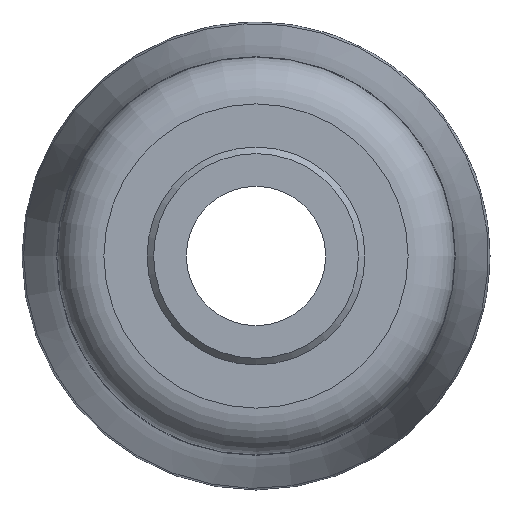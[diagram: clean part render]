
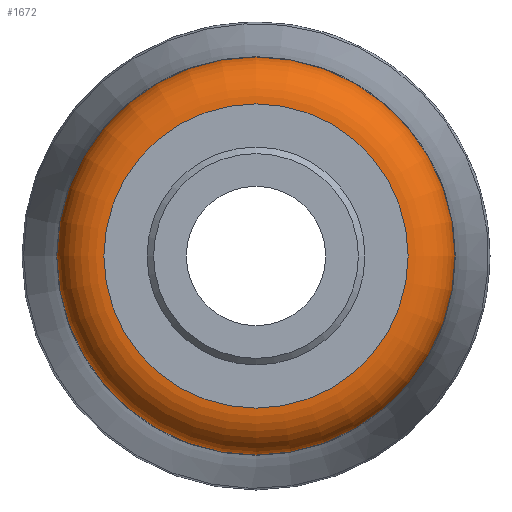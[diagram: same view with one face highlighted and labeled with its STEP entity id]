
A CAD part, left-side view. The second image highlights one B-rep face of the part: STEP entity #1672.
In plain terms, the highlighted toroidal (fillet/blend) face has major radius 27.625 mm and minor radius 8.5 mm.
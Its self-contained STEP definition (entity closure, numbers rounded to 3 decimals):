
#16=TOROIDAL_SURFACE('',#1828,27.625,8.5);
#353=FACE_BOUND('',#498,.T.);
#388=FACE_OUTER_BOUND('',#497,.T.);
#497=EDGE_LOOP('',(#1219));
#498=EDGE_LOOP('',(#1220));
#613=CIRCLE('',#1807,36.125);
#626=CIRCLE('',#1829,27.625);
#725=VERTEX_POINT('',#2859);
#735=VERTEX_POINT('',#2919);
#896=EDGE_CURVE('',#725,#725,#613,.T.);
#912=EDGE_CURVE('',#735,#735,#626,.T.);
#1219=ORIENTED_EDGE('',*,*,#912,.T.);
#1220=ORIENTED_EDGE('',*,*,#896,.T.);
#1672=ADVANCED_FACE('',(#388,#353),#16,.T.);
#1807=AXIS2_PLACEMENT_3D('',#2860,#2076,#2077);
#1828=AXIS2_PLACEMENT_3D('',#2918,#2119,#2120);
#1829=AXIS2_PLACEMENT_3D('',#2920,#2121,#2122);
#2076=DIRECTION('center_axis',(-1.,0.,0.));
#2077=DIRECTION('ref_axis',(0.,-1.,0.));
#2119=DIRECTION('center_axis',(1.,0.,0.));
#2120=DIRECTION('ref_axis',(0.,0.,-1.));
#2121=DIRECTION('center_axis',(1.,0.,0.));
#2122=DIRECTION('ref_axis',(0.,-1.,0.));
#2859=CARTESIAN_POINT('',(27.5,36.125,0.));
#2860=CARTESIAN_POINT('Origin',(27.5,0.,0.));
#2918=CARTESIAN_POINT('Origin',(27.5,0.,0.));
#2919=CARTESIAN_POINT('',(19.,27.625,0.));
#2920=CARTESIAN_POINT('Origin',(19.,0.,0.));
